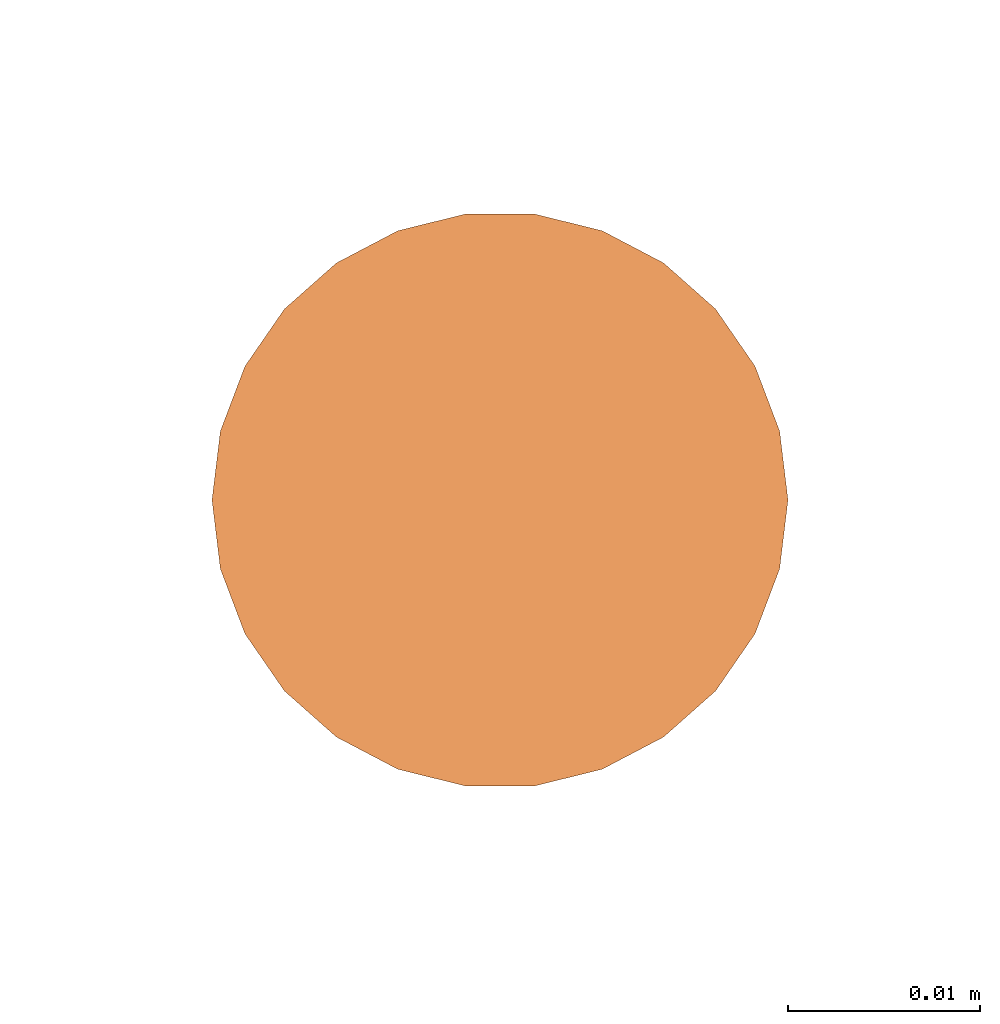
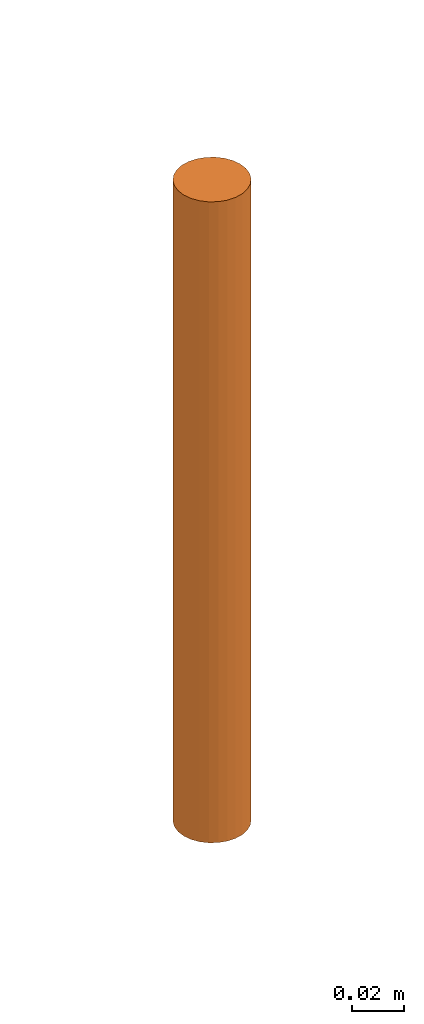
# One storey, part 9 of 16: 1 proxy.
"""IFC2X3 building model written with IfcOpenShell, lengths in centimetres."""

from ifc_helpers import new_model, entity, si_unit, converted_unit, derived_unit, direction, frame, origin, origin_2d_with_axis, place, context, subcontext, project, spatial, circle, extrude, source, transform, mapped, material, type_object, type_shapes, element, save


model = new_model("IFC2X3")

# Units and contexts
model_context = context("Model", 3, precision=0.001, world=origin(), true_north=direction((6.12303176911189e-17, 1.0)))
body_context = subcontext(model_context, "Body", "Model", "MODEL_VIEW")
ifc_project = project(units=[si_unit("LENGTHUNIT", "METRE", prefix="CENTI"), si_unit("AREAUNIT", "SQUARE_METRE"), si_unit("VOLUMEUNIT", "CUBIC_METRE"), converted_unit("PLANEANGLEUNIT", "DEGREE", entity("IfcRatioMeasure", 0.0174532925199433), si_unit("PLANEANGLEUNIT", "RADIAN"), dimensions=[0, 0, 0, 0, 0, 0, 0]), si_unit("MASSUNIT", "GRAM", prefix="KILO"), derived_unit("MASSDENSITYUNIT", [(si_unit("MASSUNIT", "GRAM", prefix="KILO"), 1), (si_unit("LENGTHUNIT", "METRE"), -3)]), si_unit("TIMEUNIT", "SECOND"), si_unit("FREQUENCYUNIT", "HERTZ"), si_unit("THERMODYNAMICTEMPERATUREUNIT", "DEGREE_CELSIUS"), derived_unit("THERMALTRANSMITTANCEUNIT", [(si_unit("MASSUNIT", "GRAM", prefix="KILO"), 1), (si_unit("THERMODYNAMICTEMPERATUREUNIT", "KELVIN"), -1), (si_unit("TIMEUNIT", "SECOND"), -3)]), derived_unit("VOLUMETRICFLOWRATEUNIT", [(si_unit("LENGTHUNIT", "METRE"), 3), (si_unit("TIMEUNIT", "SECOND"), -1)]), si_unit("ELECTRICCURRENTUNIT", "AMPERE"), si_unit("ELECTRICVOLTAGEUNIT", "VOLT"), si_unit("POWERUNIT", "WATT"), si_unit("FORCEUNIT", "NEWTON"), si_unit("ILLUMINANCEUNIT", "LUX"), si_unit("LUMINOUSFLUXUNIT", "LUMEN"), si_unit("LUMINOUSINTENSITYUNIT", "CANDELA"), derived_unit("USERDEFINED", [(si_unit("MASSUNIT", "GRAM", prefix="KILO"), -1), (si_unit("LENGTHUNIT", "METRE"), -2), (si_unit("TIMEUNIT", "SECOND"), 3), (si_unit("LUMINOUSFLUXUNIT", "LUMEN"), 1)]), derived_unit("LINEARVELOCITYUNIT", [(si_unit("LENGTHUNIT", "METRE"), 1), (si_unit("TIMEUNIT", "SECOND"), -1)]), si_unit("PRESSUREUNIT", "PASCAL"), derived_unit("USERDEFINED", [(si_unit("LENGTHUNIT", "METRE"), -2), (si_unit("MASSUNIT", "GRAM", prefix="KILO"), 1), (si_unit("TIMEUNIT", "SECOND"), -2)])], contexts=[model_context])

# Site, building, storey
site_placement = place(None, origin())
site = spatial("IfcSite", under=ifc_project, at=site_placement, Name="Default", CompositionType="ELEMENT")
building_placement = place(site_placement, origin())
building = spatial("IfcBuilding", under=site, at=building_placement, Name="CAGE 03", CompositionType="ELEMENT")
storey_placement = place(building_placement, frame((0.0, 0.0, 65.0)))
storey = spatial("IfcBuildingStorey", under=building, at=storey_placement, Name="Ac RDC", CompositionType="ELEMENT", Elevation=64.9999999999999)

# Proxy
ifc_material = material(Name="BBGO_Résa")
building_element_proxy_type = type_object("IfcBuildingElementProxyType", Name="Ø30", PredefinedType="NOTDEFINED", material=ifc_material)
shared_shape = source(origin(), body_context, "Body", "SweptSolid", [
    extrude(circle(Radius=1.5, at=origin_2d_with_axis()), frame((6664.67225953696, 4853.34941705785, 310.0)), (0.0, 0.0, 1.0), 29.9999999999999),
])
type_shapes(building_element_proxy_type, [shared_shape])
proxy_placement = place(storey_placement, frame((0.0, 0.0, -65.0)))
element("IfcBuildingElementProxy", 1, at=proxy_placement, inside=storey, type_object=building_element_proxy_type, material=ifc_material, Name="BBGO-Résa circ dalle:Ø30", ObjectType="Ø30", context=body_context, shape_type="MappedRepresentation", body=[
    mapped(shared_shape, transform((0.0, 0.0, 0.0), scale=1.0)),
])

save(model, "model.ifc")
